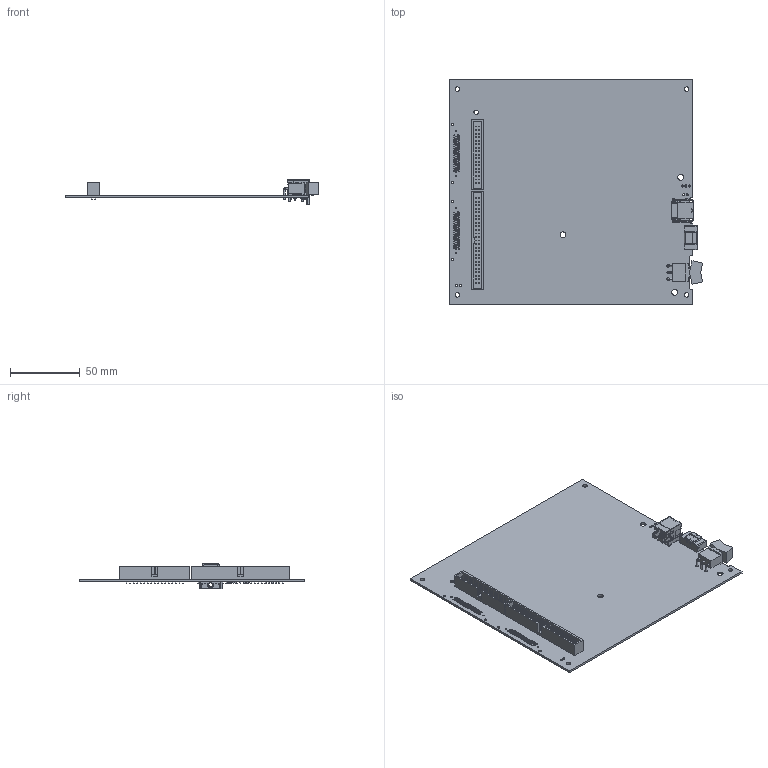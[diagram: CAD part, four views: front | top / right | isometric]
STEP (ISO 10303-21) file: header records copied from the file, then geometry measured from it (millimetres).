
FILE_DESCRIPTION((''),'2;1');
FILE_NAME('CU_USB-6341_OEM','2017-02-02T',('dkendric'),(''),'CREO PARAMETRIC BY PTC INC, 2015380','CREO PARAMETRIC BY PTC INC, 2015380','');
FILE_SCHEMA(('CONFIG_CONTROL_DESIGN'));
Products named in the file (1): CU_USB-6341_OEM
Bounding box: 182.3 x 162.56 x 18.36 mm (x, y, z)
Volume: 54044.1 mm3; surface area: 70452.2 mm2
Topology: 3 solids, 4 shells, 2812 faces, 7778 edges, 5118 vertices
Faces by surface type: plane 1888, cylinder 866, bspline 40, torus 10, sphere 4, cone 2, extrusion 2
Entity records: 91134 total; most frequent: CARTESIAN_POINT 17191, ORIENTED_EDGE 15476, DIRECTION 14960, EDGE_CURVE 7738, VECTOR 5798, LINE 5796, VERTEX_POINT 5156, AXIS2_PLACEMENT_3D 4581
